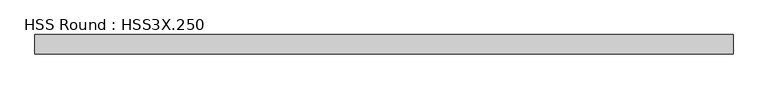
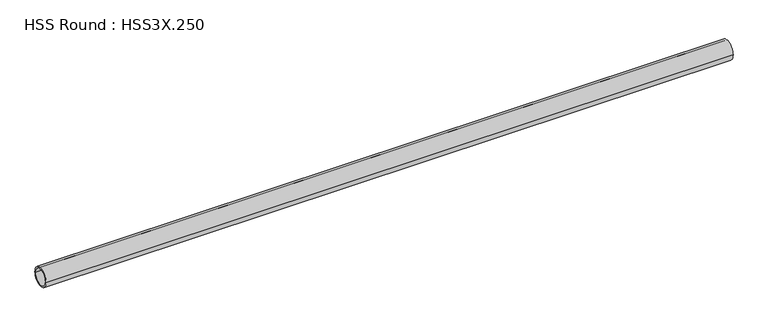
"""IFC4 building model written with IfcOpenShell, lengths in millimetres: member geometry, HSS Round : HSS3X.250."""

from ifc_helpers import new_model, si_unit, point, frame, origin, origin_2d, place, context, project, spatial, circle_curve, trimmed, segment, composite_curve, outline, extrude, source, transform, mapped, element, save


def hss_round_hss3x_250_e1f9c9cf(model_context):
    return source(origin(), model_context, "Body", "SweptSolid", [
        extrude(outline(composite_curve([segment(trimmed(circle_curve(origin_2d(), 38.1), [point((-38.1, 0.0))], [point((38.1, 0.0))], False, "CARTESIAN"), True, "CONTINUOUS"), segment(trimmed(circle_curve(origin_2d(), 38.1), [point((38.1, 0.0))], [point((-38.1, 0.0))], False, "CARTESIAN"), True, "CONTINUOUS")], self_intersect=False), holes=[composite_curve([segment(trimmed(circle_curve(origin_2d(), 31.75), [point((31.75, 0.0))], [point((-31.75, 0.0))], True, "CARTESIAN"), True, "CONTINUOUS"), segment(trimmed(circle_curve(origin_2d(), 31.75), [point((-31.75, 0.0))], [point((31.75, 0.0))], True, "CARTESIAN"), True, "CONTINUOUS")], self_intersect=False)]), frame((-1405.848677, 0.0, 0.0), z_axis=(1.0, 0.0, 0.0), x_axis=(0.0, 1.0, 0.0)), (0.0, 0.0, 1.0), 2728.8993753),
    ])


if __name__ == "__main__":
    model = new_model("IFC4")
    model_context = context("Model", 3, world=origin())
    ifc_project = project(units=[si_unit("LENGTHUNIT", "METRE", prefix="MILLI")], contexts=[model_context])
    site = spatial("IfcSite", under=ifc_project)
    building = spatial("IfcBuilding", under=site)
    placement = place(None, origin())
    hss_round_hss3x_250_shape = hss_round_hss3x_250_e1f9c9cf(model_context)
    element("IfcMember", 1, ObjectType="HSS Round : HSS3X.250", at=placement, inside=building, context=model_context, shape_type="MappedRepresentation", body=[
        mapped(hss_round_hss3x_250_shape, transform((0.0, 0.0, 0.0), x_axis=(1.0, 0.0, 0.0), y_axis=(0.0, 1.0, 0.0), z_axis=(0.0, 0.0, 1.0))),
    ])
    save(model, "model.ifc")
